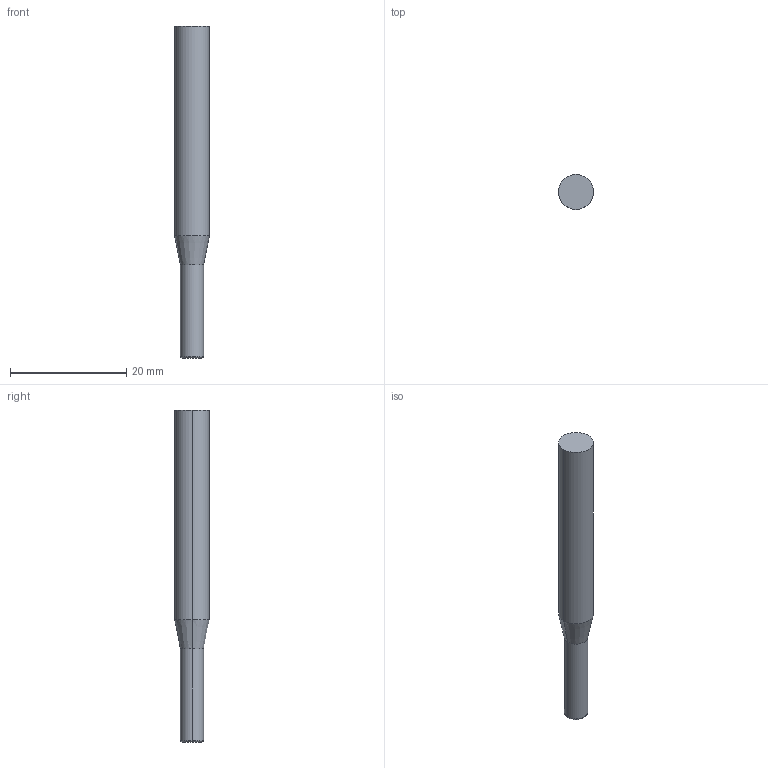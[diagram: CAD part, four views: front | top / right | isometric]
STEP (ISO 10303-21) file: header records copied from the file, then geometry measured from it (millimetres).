
FILE_DESCRIPTION(('STEP AP214'),'1');
FILE_NAME('cctmp_E5658115-0F6B-4600-8D18-7BBE7D53862D_2020_10_01_07_14_32_0197..stp','2020-10-01T05:14:32',('Meusburger Georg GmbH & Co KG'),('CADClick - www.CADClick.com'),'Spatial InterOp 3D',' ','unknown authorization');
FILE_SCHEMA(('AUTOMOTIVE_DESIGN { 1 0 10303 214 1 1 1 1 }'));
Length unit declared in the file: millimetre
Products named in the file (1): WZF17418_4_0.3
Bounding box: 6 x 6 x 57 mm (x, y, z)
Volume: 1318.2 mm3; surface area: 998.9 mm2
Topology: 1 solids, 1 shells, 10 faces, 18 edges, 10 vertices
Faces by surface type: cylinder 4, cone 2, torus 2, plane 2
Entity records: 350 total; most frequent: DIRECTION 52, CARTESIAN_POINT 39, ORIENTED_EDGE 36, AXIS2_PLACEMENT_3D 23, EDGE_CURVE 18, CIRCLE 12, STYLED_ITEM 11, PRESENTATION_STYLE_ASSIGNMENT 11
